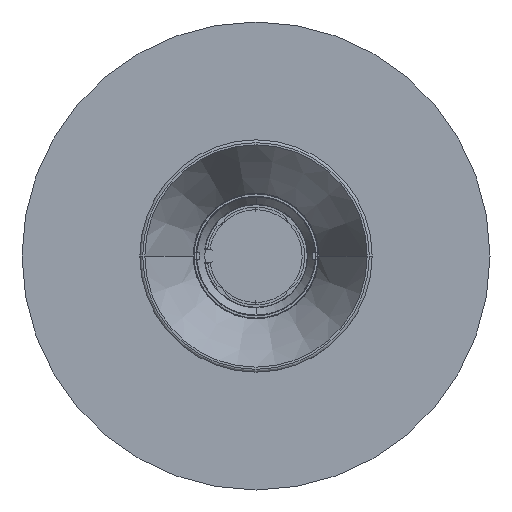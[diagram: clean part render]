
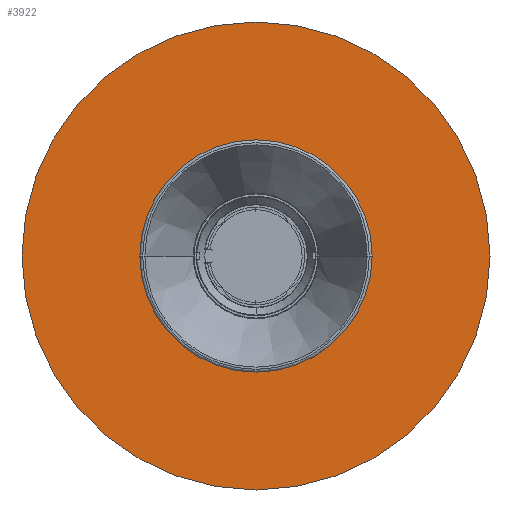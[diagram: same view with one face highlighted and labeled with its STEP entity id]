
A CAD part, front view. The second image highlights one B-rep face of the part: STEP entity #3922.
In plain terms, the highlighted planar face has unit normal (0, -1, 0).
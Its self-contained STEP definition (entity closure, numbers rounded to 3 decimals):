
#471 = CARTESIAN_POINT ( 'NONE',  ( 0., 0., -3.25 ) ) ;
#975 = ORIENTED_EDGE ( 'NONE', *, *, #1891, .F. ) ;
#1073 = AXIS2_PLACEMENT_3D ( 'NONE', #4508, #3790, #6667 ) ;
#1080 = EDGE_LOOP ( 'NONE', ( #7210, #975 ) ) ;
#1242 = CIRCLE ( 'NONE', #8963, 60. ) ;
#1607 = ORIENTED_EDGE ( 'NONE', *, *, #6872, .T. ) ;
#1891 = EDGE_CURVE ( 'NONE', #4214, #7289, #1242, .T. ) ;
#1955 = DIRECTION ( 'NONE',  ( 0., 1., 0. ) ) ;
#2008 = VERTEX_POINT ( 'NONE', #471 ) ;
#2065 = CIRCLE ( 'NONE', #3263, 3.25 ) ;
#2757 = AXIS2_PLACEMENT_3D ( 'NONE', #7062, #1955, #4216 ) ;
#3175 = AXIS2_PLACEMENT_3D ( 'NONE', #7380, #4401, #7287 ) ;
#3263 = AXIS2_PLACEMENT_3D ( 'NONE', #6308, #3479, #7895 ) ;
#3479 = DIRECTION ( 'NONE',  ( 0., 1., 0. ) ) ;
#3790 = DIRECTION ( 'NONE',  ( 0., 1., 0. ) ) ;
#3922 = ADVANCED_FACE ( 'NONE', ( #6477, #8448 ), #8491, .F. ) ;
#4083 = EDGE_CURVE ( 'NONE', #7289, #4214, #9234, .T. ) ;
#4214 = VERTEX_POINT ( 'NONE', #9246 ) ;
#4216 = DIRECTION ( 'NONE',  ( 0., 0., 1. ) ) ;
#4401 = DIRECTION ( 'NONE',  ( 0., 1., 0. ) ) ;
#4508 = CARTESIAN_POINT ( 'NONE',  ( 0., 0., 0. ) ) ;
#4717 = EDGE_CURVE ( 'NONE', #2008, #7239, #8473, .T. ) ;
#5214 = ORIENTED_EDGE ( 'NONE', *, *, #4717, .T. ) ;
#5226 = EDGE_LOOP ( 'NONE', ( #5214, #1607 ) ) ;
#5901 = DIRECTION ( 'NONE',  ( 0., 1., 0. ) ) ;
#5994 = CARTESIAN_POINT ( 'NONE',  ( 0., 0., 0. ) ) ;
#6070 = CARTESIAN_POINT ( 'NONE',  ( 0., 0., 3.25 ) ) ;
#6308 = CARTESIAN_POINT ( 'NONE',  ( 0., 0., 0. ) ) ;
#6393 = CARTESIAN_POINT ( 'NONE',  ( 0., 0., -60. ) ) ;
#6477 = FACE_OUTER_BOUND ( 'NONE', #1080, .T. ) ;
#6667 = DIRECTION ( 'NONE',  ( 0., 0., 1. ) ) ;
#6872 = EDGE_CURVE ( 'NONE', #7239, #2008, #2065, .T. ) ;
#7062 = CARTESIAN_POINT ( 'NONE',  ( 0., 0., 0. ) ) ;
#7210 = ORIENTED_EDGE ( 'NONE', *, *, #4083, .F. ) ;
#7239 = VERTEX_POINT ( 'NONE', #6070 ) ;
#7287 = DIRECTION ( 'NONE',  ( 0., 0., 1. ) ) ;
#7289 = VERTEX_POINT ( 'NONE', #6393 ) ;
#7380 = CARTESIAN_POINT ( 'NONE',  ( 0., 0., 0. ) ) ;
#7895 = DIRECTION ( 'NONE',  ( 0., 0., 1. ) ) ;
#8448 = FACE_BOUND ( 'NONE', #5226, .T. ) ;
#8473 = CIRCLE ( 'NONE', #3175, 3.25 ) ;
#8491 = PLANE ( 'NONE',  #2757 ) ;
#8812 = DIRECTION ( 'NONE',  ( 0., 0., 1. ) ) ;
#8963 = AXIS2_PLACEMENT_3D ( 'NONE', #5994, #5901, #8812 ) ;
#9234 = CIRCLE ( 'NONE', #1073, 60. ) ;
#9246 = CARTESIAN_POINT ( 'NONE',  ( 0., 0., 60. ) ) ;
